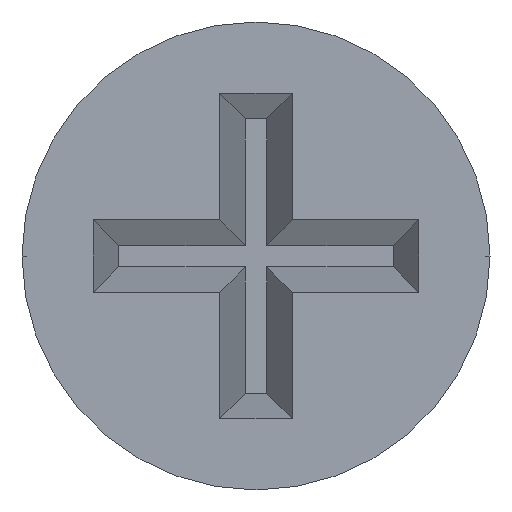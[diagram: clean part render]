
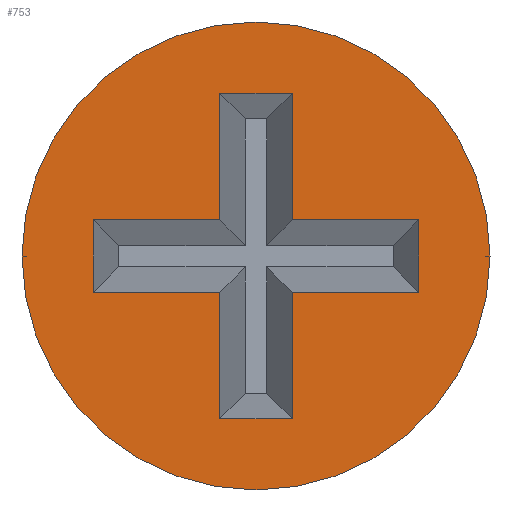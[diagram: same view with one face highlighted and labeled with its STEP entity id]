
A CAD part, top view. The second image highlights one B-rep face of the part: STEP entity #753.
In plain terms, the highlighted planar face has unit normal (0, 0, 1).
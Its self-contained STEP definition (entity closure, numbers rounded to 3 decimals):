
#32 = VERTEX_POINT ( 'NONE', #1867 ) ;
#35 = VECTOR ( 'NONE', #2175, 1000. ) ;
#73 = CARTESIAN_POINT ( 'NONE',  ( -0.5, 0.5, 22. ) ) ;
#108 = CARTESIAN_POINT ( 'NONE',  ( 3.232, 0., 22. ) ) ;
#126 = DIRECTION ( 'NONE',  ( 1., 0., 0. ) ) ;
#160 = DIRECTION ( 'NONE',  ( 0., -1., 0. ) ) ;
#165 = VERTEX_POINT ( 'NONE', #2229 ) ;
#205 = LINE ( 'NONE', #1254, #1506 ) ;
#209 = DIRECTION ( 'NONE',  ( 0., 0., 1. ) ) ;
#213 = ORIENTED_EDGE ( 'NONE', *, *, #1509, .F. ) ;
#244 = DIRECTION ( 'NONE',  ( -1., 0., 0. ) ) ;
#265 = LINE ( 'NONE', #845, #1604 ) ;
#273 = EDGE_CURVE ( 'NONE', #2876, #1554, #205, .T. ) ;
#293 = DIRECTION ( 'NONE',  ( 0., 0., 1. ) ) ;
#309 = ORIENTED_EDGE ( 'NONE', *, *, #1972, .F. ) ;
#396 = LINE ( 'NONE', #913, #1949 ) ;
#403 = CARTESIAN_POINT ( 'NONE',  ( -3.232, 0., 22. ) ) ;
#461 = LINE ( 'NONE', #2058, #898 ) ;
#514 = LINE ( 'NONE', #1790, #1839 ) ;
#536 = CARTESIAN_POINT ( 'NONE',  ( -2.25, 0.5, 22. ) ) ;
#549 = CARTESIAN_POINT ( 'NONE',  ( 0.5, -0.5, 22. ) ) ;
#673 = DIRECTION ( 'NONE',  ( 1., 0., 0. ) ) ;
#685 = EDGE_CURVE ( 'NONE', #2252, #1430, #1950, .T. ) ;
#707 = CARTESIAN_POINT ( 'NONE',  ( -2.25, -0.5, 22. ) ) ;
#737 = CIRCLE ( 'NONE', #1076, 3.232 ) ;
#753 = ADVANCED_FACE ( 'NONE', ( #1296, #1567 ), #1819, .T. ) ;
#845 = CARTESIAN_POINT ( 'NONE',  ( -0.5, 0.5, 22. ) ) ;
#869 = CARTESIAN_POINT ( 'NONE',  ( 0.5, 0.5, 22. ) ) ;
#893 = EDGE_CURVE ( 'NONE', #1657, #1190, #2358, .T. ) ;
#898 = VECTOR ( 'NONE', #1515, 1000. ) ;
#913 = CARTESIAN_POINT ( 'NONE',  ( -0.5, -2.25, 22. ) ) ;
#1011 = DIRECTION ( 'NONE',  ( 0., 1., 0. ) ) ;
#1057 = ORIENTED_EDGE ( 'NONE', *, *, #3274, .F. ) ;
#1060 = DIRECTION ( 'NONE',  ( 1., 0., 0. ) ) ;
#1062 = ORIENTED_EDGE ( 'NONE', *, *, #1417, .F. ) ;
#1072 = ORIENTED_EDGE ( 'NONE', *, *, #893, .T. ) ;
#1076 = AXIS2_PLACEMENT_3D ( 'NONE', #1165, #3044, #2227 ) ;
#1077 = EDGE_CURVE ( 'NONE', #2127, #2375, #2920, .T. ) ;
#1080 = AXIS2_PLACEMENT_3D ( 'NONE', #3088, #209, #2602 ) ;
#1083 = CARTESIAN_POINT ( 'NONE',  ( -0.5, 2.25, 22. ) ) ;
#1103 = ORIENTED_EDGE ( 'NONE', *, *, #2471, .F. ) ;
#1152 = ORIENTED_EDGE ( 'NONE', *, *, #273, .F. ) ;
#1165 = CARTESIAN_POINT ( 'NONE',  ( 0., 0., 22. ) ) ;
#1173 = ORIENTED_EDGE ( 'NONE', *, *, #3255, .F. ) ;
#1184 = VECTOR ( 'NONE', #126, 1000. ) ;
#1190 = VERTEX_POINT ( 'NONE', #403 ) ;
#1207 = VERTEX_POINT ( 'NONE', #3063 ) ;
#1254 = CARTESIAN_POINT ( 'NONE',  ( -2.25, 0.5, 22. ) ) ;
#1260 = CARTESIAN_POINT ( 'NONE',  ( 0.5, 0.5, 22. ) ) ;
#1294 = DIRECTION ( 'NONE',  ( 0., -1., 0. ) ) ;
#1296 = FACE_BOUND ( 'NONE', #2945, .T. ) ;
#1385 = VECTOR ( 'NONE', #673, 1000. ) ;
#1417 = EDGE_CURVE ( 'NONE', #165, #2454, #2293, .T. ) ;
#1430 = VERTEX_POINT ( 'NONE', #3299 ) ;
#1504 = VECTOR ( 'NONE', #1748, 1000. ) ;
#1506 = VECTOR ( 'NONE', #2321, 1000. ) ;
#1509 = EDGE_CURVE ( 'NONE', #1430, #165, #396, .T. ) ;
#1515 = DIRECTION ( 'NONE',  ( -1., 0., 0. ) ) ;
#1554 = VERTEX_POINT ( 'NONE', #536 ) ;
#1566 = LINE ( 'NONE', #1635, #35 ) ;
#1567 = FACE_OUTER_BOUND ( 'NONE', #1751, .T. ) ;
#1604 = VECTOR ( 'NONE', #1294, 1000. ) ;
#1621 = EDGE_CURVE ( 'NONE', #2454, #2394, #514, .T. ) ;
#1635 = CARTESIAN_POINT ( 'NONE',  ( 2.25, -0.5, 22. ) ) ;
#1657 = VERTEX_POINT ( 'NONE', #108 ) ;
#1679 = ORIENTED_EDGE ( 'NONE', *, *, #3386, .F. ) ;
#1748 = DIRECTION ( 'NONE',  ( 0., -1., 0. ) ) ;
#1751 = EDGE_LOOP ( 'NONE', ( #1072, #2639 ) ) ;
#1790 = CARTESIAN_POINT ( 'NONE',  ( 0.5, -2.25, 22. ) ) ;
#1819 = PLANE ( 'NONE',  #2184 ) ;
#1829 = VECTOR ( 'NONE', #244, 1000. ) ;
#1834 = CARTESIAN_POINT ( 'NONE',  ( 0.5, -2.25, 22. ) ) ;
#1839 = VECTOR ( 'NONE', #1011, 1000. ) ;
#1867 = CARTESIAN_POINT ( 'NONE',  ( 2.25, -0.5, 22. ) ) ;
#1890 = DIRECTION ( 'NONE',  ( 0., 1., 0. ) ) ;
#1903 = EDGE_CURVE ( 'NONE', #1190, #1657, #737, .T. ) ;
#1949 = VECTOR ( 'NONE', #160, 1000. ) ;
#1950 = LINE ( 'NONE', #3028, #2681 ) ;
#1952 = CARTESIAN_POINT ( 'NONE',  ( 0.5, -0.5, 22. ) ) ;
#1972 = EDGE_CURVE ( 'NONE', #2394, #32, #3061, .T. ) ;
#2058 = CARTESIAN_POINT ( 'NONE',  ( -0.5, 2.25, 22. ) ) ;
#2061 = ORIENTED_EDGE ( 'NONE', *, *, #3367, .F. ) ;
#2086 = CARTESIAN_POINT ( 'NONE',  ( 0.5, 0.5, 22. ) ) ;
#2096 = LINE ( 'NONE', #1260, #1829 ) ;
#2127 = VERTEX_POINT ( 'NONE', #2086 ) ;
#2174 = VERTEX_POINT ( 'NONE', #1083 ) ;
#2175 = DIRECTION ( 'NONE',  ( 0., 1., 0. ) ) ;
#2184 = AXIS2_PLACEMENT_3D ( 'NONE', #3172, #293, #2895 ) ;
#2227 = DIRECTION ( 'NONE',  ( 1., 0., 0. ) ) ;
#2229 = CARTESIAN_POINT ( 'NONE',  ( -0.5, -2.25, 22. ) ) ;
#2252 = VERTEX_POINT ( 'NONE', #2661 ) ;
#2293 = LINE ( 'NONE', #3350, #1184 ) ;
#2321 = DIRECTION ( 'NONE',  ( -1., 0., 0. ) ) ;
#2349 = ORIENTED_EDGE ( 'NONE', *, *, #685, .F. ) ;
#2358 = CIRCLE ( 'NONE', #1080, 3.232 ) ;
#2375 = VERTEX_POINT ( 'NONE', #3278 ) ;
#2394 = VERTEX_POINT ( 'NONE', #549 ) ;
#2454 = VERTEX_POINT ( 'NONE', #1834 ) ;
#2471 = EDGE_CURVE ( 'NONE', #1207, #2127, #2096, .T. ) ;
#2602 = DIRECTION ( 'NONE',  ( 1., 0., 0. ) ) ;
#2639 = ORIENTED_EDGE ( 'NONE', *, *, #1903, .T. ) ;
#2661 = CARTESIAN_POINT ( 'NONE',  ( -2.25, -0.5, 22. ) ) ;
#2681 = VECTOR ( 'NONE', #1060, 1000. ) ;
#2876 = VERTEX_POINT ( 'NONE', #73 ) ;
#2892 = ORIENTED_EDGE ( 'NONE', *, *, #1077, .F. ) ;
#2895 = DIRECTION ( 'NONE',  ( 1., 0., 0. ) ) ;
#2911 = ORIENTED_EDGE ( 'NONE', *, *, #1621, .F. ) ;
#2920 = LINE ( 'NONE', #869, #2964 ) ;
#2945 = EDGE_LOOP ( 'NONE', ( #213, #2349, #1057, #1152, #2061, #1173, #2892, #1103, #1679, #309, #2911, #1062 ) ) ;
#2964 = VECTOR ( 'NONE', #1890, 1000. ) ;
#3028 = CARTESIAN_POINT ( 'NONE',  ( -2.25, -0.5, 22. ) ) ;
#3044 = DIRECTION ( 'NONE',  ( 0., 0., 1. ) ) ;
#3061 = LINE ( 'NONE', #1952, #1385 ) ;
#3063 = CARTESIAN_POINT ( 'NONE',  ( 2.25, 0.5, 22. ) ) ;
#3073 = LINE ( 'NONE', #707, #1504 ) ;
#3088 = CARTESIAN_POINT ( 'NONE',  ( 0., 0., 22. ) ) ;
#3172 = CARTESIAN_POINT ( 'NONE',  ( 0., 0., 22. ) ) ;
#3255 = EDGE_CURVE ( 'NONE', #2375, #2174, #461, .T. ) ;
#3274 = EDGE_CURVE ( 'NONE', #1554, #2252, #3073, .T. ) ;
#3278 = CARTESIAN_POINT ( 'NONE',  ( 0.5, 2.25, 22. ) ) ;
#3299 = CARTESIAN_POINT ( 'NONE',  ( -0.5, -0.5, 22. ) ) ;
#3350 = CARTESIAN_POINT ( 'NONE',  ( -0.5, -2.25, 22. ) ) ;
#3367 = EDGE_CURVE ( 'NONE', #2174, #2876, #265, .T. ) ;
#3386 = EDGE_CURVE ( 'NONE', #32, #1207, #1566, .T. ) ;
